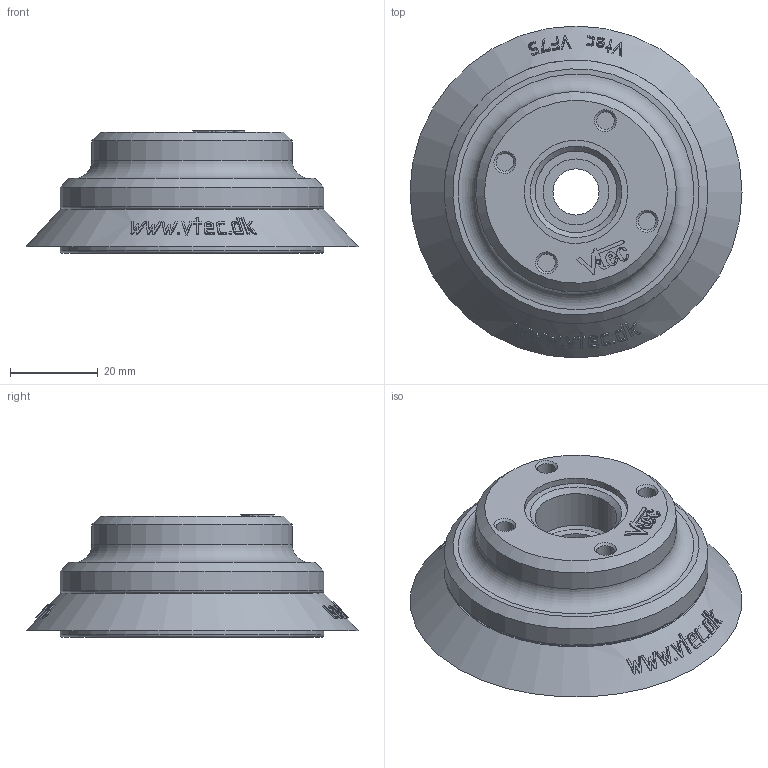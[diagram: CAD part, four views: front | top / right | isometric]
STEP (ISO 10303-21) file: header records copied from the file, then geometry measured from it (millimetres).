
FILE_DESCRIPTION( ( 'STEP AP203' ), '1' );
FILE_NAME( 'C:/Documents and Settings/Owner/官帕 拳搁/3D/Vacuum Pad/VF series/VF75-12F.stp', '2006-04-25T04:58:18', ( ' ' ), ( ' ' ), 'XStep 1.0', ' ', ' ' );
FILE_SCHEMA( ( 'CONFIG_CONTROL_DESIGN) ( )' ) );
Length unit declared in the file: metre
Products named in the file (3): Assem1; 1; 2
Bounding box: 75.5 x 75.5 x 27.8 mm (x, y, z)
Volume: 93336.6 mm3; surface area: 43336.4 mm2
Topology: 4 solids, 4 shells, 680 faces, 1742 edges, 1156 vertices
Faces by surface type: bspline 324, plane 142, cylinder 138, cone 64, torus 8, extrusion 4
Full cylindrical faces by diameter (mm): 0.791 x2, 4 x16, 6 x8, 10.5 x2, 15 x2, 18.6 x2, 23.5 x2, 45.6 x2, 55 x4, 60 x2
Entity records: 15964 total; most frequent: CARTESIAN_POINT 8771, ORIENTED_EDGE 1650, DIRECTION 1001, EDGE_CURVE 825, VERTEX_POINT 567, EDGE_LOOP 430, FACE_OUTER_BOUND 365, B_SPLINE_CURVE_WITH_KNOTS 363
